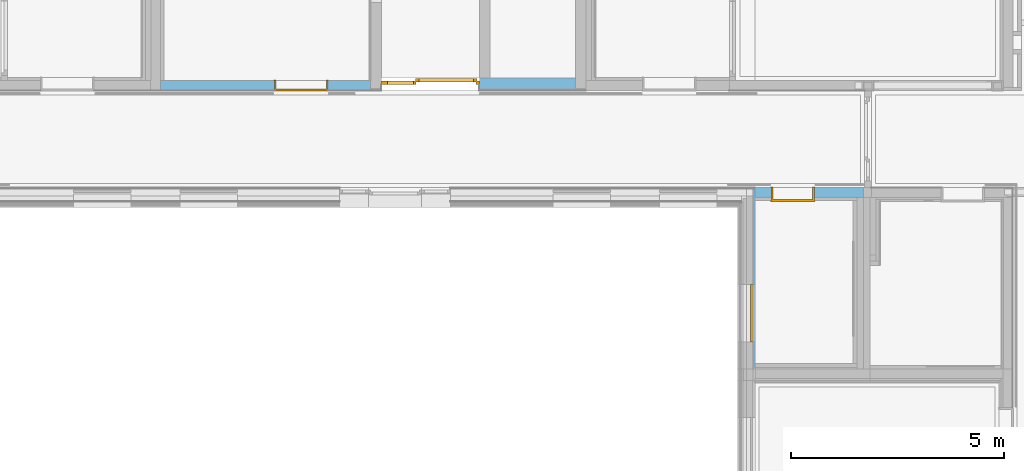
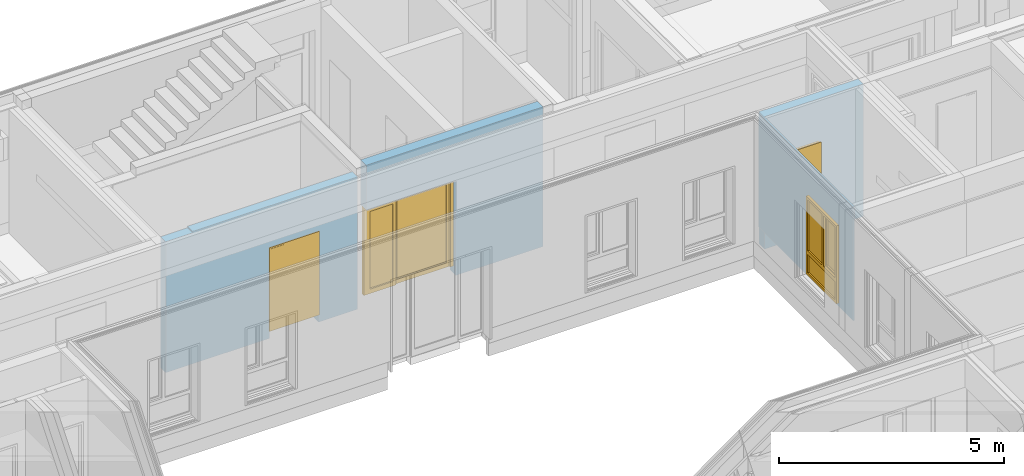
# One storey, part 108 of 207: 3 doors, 1 window, 4 openings, plus 4 elements that do not belong to this part.
"""IFC4 building model written with IfcOpenShell, lengths in metres."""

from ifc_helpers import new_model, entity, si_unit, converted_unit, derived_unit, frame, frame_2d, origin, origin_with_axes, place, context, subcontext, project, spatial, polyline, rectangle, outline, extrude, clip, bounded_halfspace, closed_shell, open_shell, faceted_brep, surface_model, source, transform, mapped, material, type_object, element, fill, save


model = new_model("IFC4")

# Units and contexts
model_context = context("Model", 3, precision=1e-05, world=origin())
body_context = subcontext(model_context, "Body", "Model", "MODEL_VIEW")
ifc_project = project(units=[si_unit("LENGTHUNIT", "METRE"), si_unit("AREAUNIT", "SQUARE_METRE"), si_unit("VOLUMEUNIT", "CUBIC_METRE"), si_unit("MASSUNIT", "GRAM", prefix="KILO"), converted_unit("PLANEANGLEUNIT", "DEGREE", entity("IfcPlaneAngleMeasure", 0.0174532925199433), si_unit("PLANEANGLEUNIT", "RADIAN"), dimensions=[0, 0, 0, 0, 0, 0, 0]), derived_unit("THERMALTRANSMITTANCEUNIT", [(si_unit("POWERUNIT", "WATT"), 1), (si_unit("THERMODYNAMICTEMPERATUREUNIT", "KELVIN"), -1), (si_unit("LENGTHUNIT", "METRE"), -2)]), derived_unit("VOLUMETRICFLOWRATEUNIT", [(si_unit("LENGTHUNIT", "METRE"), 3), (converted_unit("TIMEUNIT", "hour", entity("IfcTimeMeasure", 3600.0), si_unit("TIMEUNIT", "SECOND"), dimensions=[0, 0, 1, 0, 0, 0, 0]), -1), (si_unit("LENGTHUNIT", "METRE"), -1)])], contexts=[model_context])

# Site, building, storey
site_placement = place(None, origin())
site = spatial("IfcSite", under=ifc_project, at=site_placement, Name="Psychiatrie Neubau Wunstorf", CompositionType="ELEMENT")
building_placement = place(site_placement, origin())
building = spatial("IfcBuilding", under=site, at=building_placement, Name="Neubau H2 Stationsgebäude", CompositionType="ELEMENT")
storey_placement = place(building_placement, frame((0.0, 0.0, -0.2)))
storey = spatial("IfcBuildingStorey", under=building, at=storey_placement, Name="H2 Ebene 0", CompositionType="ELEMENT", Elevation=-0.2)

# Wall, opening, window
ifc_material_1 = material(Name="WA-LB")
wall_1_placement = place(storey_placement, frame((62.0610000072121, 16.336000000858, 0.5), z_axis=(0.0, 0.0, 1.0), x_axis=(1.72661628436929e-15, 1.0, 0.0)))
wall_1 = element("IfcWall", 1, at=wall_1_placement, inside=storey, material=ifc_material_1, context=body_context, shape_type="SweptSolid", body=[
    extrude(rectangle(XDim=4.21399802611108, YDim=0.036, at=frame_2d((2.10699901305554, 0.018), x_axis=(1.0, 0.0))), origin_with_axes(), (0.0, 0.0, 1.0), 3.1),
])
opening_1_placement = place(wall_1_placement, frame((0.632998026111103, 0.0, 0.1), z_axis=(-3.15796771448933e-15, 1.0, 0.0), x_axis=(0.0, 0.0, 1.0)))
opening_1 = element("IfcOpeningElement", 2, at=opening_1_placement, cuts=wall_1, Name="Fensteröffnung", ObjectType="Opening", context=body_context, shape_type="SweptSolid", body=[
    extrude(outline(polyline([(2.12, 1.35), (2.12, 0.0), (0.0, 0.0), (0.0, 1.35), (2.12, 1.35)])), origin_with_axes(), (0.0, 0.0, 1.0), 0.036),
])
shared_shape_1 = source(origin_with_axes(), body_context, "Body", "SurfaceModel", [
    surface_model("IfcShellBasedSurfaceModel", [(0.0, 0.0, 2.12), (0.0699999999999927, 0.0, 2.12), (0.0699999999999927, 0.0, 0.0), (0.0, 0.0, 0.0), (0.0, 0.0699999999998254, 0.0), (0.0699999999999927, 0.0699999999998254, 0.0), (0.0699999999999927, 0.0699999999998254, 2.12), (0.0, 0.0699999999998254, 2.12)], [closed_shell([[[0, 1, 2, 3]], [[4, 5, 6, 7]], [[3, 4, 7, 0]], [[2, 5, 4, 3]], [[1, 6, 5, 2]], [[0, 7, 6, 1]]], orient=[[False], [False], [False], [False], [False], [False]])]),
    surface_model("IfcShellBasedSurfaceModel", [(1.27999999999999, 0.0, 2.12), (1.34999999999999, 0.0, 2.12), (1.34999999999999, 0.0, 0.0), (1.27999999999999, 0.0, 0.0), (1.27999999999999, 0.0699999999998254, 0.0), (1.34999999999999, 0.0699999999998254, 0.0), (1.34999999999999, 0.0699999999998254, 2.12), (1.27999999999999, 0.0699999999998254, 2.12)], [closed_shell([[[0, 1, 2, 3]], [[4, 5, 6, 7]], [[3, 4, 7, 0]], [[2, 5, 4, 3]], [[1, 6, 5, 2]], [[0, 7, 6, 1]]], orient=[[False], [False], [False], [False], [False], [False]])]),
    surface_model("IfcShellBasedSurfaceModel", [(0.0699999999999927, 0.0, 0.07), (1.27999999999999, 0.0, 0.07), (1.27999999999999, 0.0, 0.0), (0.0699999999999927, 0.0, 0.0), (0.0699999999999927, 0.0699999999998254, 0.0), (1.27999999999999, 0.0699999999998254, 0.0), (1.27999999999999, 0.0699999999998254, 0.07), (0.0699999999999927, 0.0699999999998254, 0.07)], [closed_shell([[[0, 1, 2, 3]], [[4, 5, 6, 7]], [[3, 4, 7, 0]], [[2, 5, 4, 3]], [[1, 6, 5, 2]], [[0, 7, 6, 1]]], orient=[[False], [False], [False], [False], [False], [False]])]),
    surface_model("IfcShellBasedSurfaceModel", [(0.0699999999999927, 0.0, 2.12), (1.27999999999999, 0.0, 2.12), (1.27999999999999, 0.0, 2.05), (0.0699999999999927, 0.0, 2.05), (0.0699999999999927, 0.0699999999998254, 2.05), (1.27999999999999, 0.0699999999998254, 2.05), (1.27999999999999, 0.0699999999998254, 2.12), (0.0699999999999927, 0.0699999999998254, 2.12)], [closed_shell([[[0, 1, 2, 3]], [[4, 5, 6, 7]], [[3, 4, 7, 0]], [[2, 5, 4, 3]], [[1, 6, 5, 2]], [[0, 7, 6, 1]]], orient=[[False], [False], [False], [False], [False], [False]])]),
    surface_model("IfcShellBasedSurfaceModel", [(0.0699999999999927, 0.0, 0.67), (1.27999999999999, 0.0, 0.67), (1.27999999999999, 0.0, 0.57), (0.0699999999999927, 0.0, 0.57), (0.0699999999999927, 0.0699999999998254, 0.57), (1.27999999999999, 0.0699999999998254, 0.57), (1.27999999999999, 0.0699999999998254, 0.67), (0.0699999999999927, 0.0699999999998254, 0.67)], [closed_shell([[[0, 1, 2, 3]], [[4, 5, 6, 7]], [[3, 4, 7, 0]], [[2, 5, 4, 3]], [[1, 6, 5, 2]], [[0, 7, 6, 1]]], orient=[[False], [False], [False], [False], [False], [False]])]),
    surface_model("IfcShellBasedSurfaceModel", [(0.0699999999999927, 0.0349999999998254, 0.07), (0.0699999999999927, 0.0349999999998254, 0.57), (1.27999999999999, 0.0349999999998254, 0.57), (1.27999999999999, 0.0349999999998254, 0.07)], [open_shell([[[0, 1, 2, 3]]], orient=[[False]])]),
    surface_model("IfcShellBasedSurfaceModel", [(0.569999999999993, 0.0, 2.05), (0.639999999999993, 0.0, 2.05), (0.639999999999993, 0.0, 0.67), (0.569999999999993, 0.0, 0.67), (0.569999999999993, 0.0699999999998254, 0.67), (0.639999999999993, 0.0699999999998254, 0.67), (0.639999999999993, 0.0699999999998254, 2.05), (0.569999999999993, 0.0699999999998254, 2.05)], [closed_shell([[[0, 1, 2, 3]], [[4, 5, 6, 7]], [[3, 4, 7, 0]], [[2, 5, 4, 3]], [[1, 6, 5, 2]], [[0, 7, 6, 1]]], orient=[[False], [False], [False], [False], [False], [False]])]),
    surface_model("IfcShellBasedSurfaceModel", [(0.0499999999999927, -0.0500000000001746, 2.07), (0.119999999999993, -0.0500000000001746, 2.07), (0.119999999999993, -0.0500000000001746, 0.65), (0.0499999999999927, -0.0500000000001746, 0.65), (0.0499999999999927, 0.0199999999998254, 0.65), (0.119999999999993, 0.0199999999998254, 0.65), (0.119999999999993, 0.0199999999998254, 2.07), (0.0499999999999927, 0.0199999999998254, 2.07)], [closed_shell([[[0, 1, 2, 3]], [[4, 5, 6, 7]], [[3, 4, 7, 0]], [[2, 5, 4, 3]], [[1, 6, 5, 2]], [[0, 7, 6, 1]]], orient=[[False], [False], [False], [False], [False], [False]])]),
    surface_model("IfcShellBasedSurfaceModel", [(0.519999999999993, -0.0500000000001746, 2.07), (0.589999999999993, -0.0500000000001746, 2.07), (0.589999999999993, -0.0500000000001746, 0.65), (0.519999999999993, -0.0500000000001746, 0.65), (0.519999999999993, 0.0199999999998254, 0.65), (0.589999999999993, 0.0199999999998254, 0.65), (0.589999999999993, 0.0199999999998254, 2.07), (0.519999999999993, 0.0199999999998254, 2.07)], [closed_shell([[[0, 1, 2, 3]], [[4, 5, 6, 7]], [[3, 4, 7, 0]], [[2, 5, 4, 3]], [[1, 6, 5, 2]], [[0, 7, 6, 1]]], orient=[[False], [False], [False], [False], [False], [False]])]),
    surface_model("IfcShellBasedSurfaceModel", [(0.119999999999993, -0.0500000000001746, 0.72), (0.519999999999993, -0.0500000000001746, 0.72), (0.519999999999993, -0.0500000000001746, 0.65), (0.119999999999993, -0.0500000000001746, 0.65), (0.119999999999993, 0.0199999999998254, 0.65), (0.519999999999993, 0.0199999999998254, 0.65), (0.519999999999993, 0.0199999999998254, 0.72), (0.119999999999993, 0.0199999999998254, 0.72)], [closed_shell([[[0, 1, 2, 3]], [[4, 5, 6, 7]], [[3, 4, 7, 0]], [[2, 5, 4, 3]], [[1, 6, 5, 2]], [[0, 7, 6, 1]]], orient=[[False], [False], [False], [False], [False], [False]])]),
    surface_model("IfcShellBasedSurfaceModel", [(0.119999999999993, -0.0500000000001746, 2.07), (0.519999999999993, -0.0500000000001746, 2.07), (0.519999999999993, -0.0500000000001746, 2.0), (0.119999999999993, -0.0500000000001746, 2.0), (0.119999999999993, 0.0199999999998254, 2.0), (0.519999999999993, 0.0199999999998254, 2.0), (0.519999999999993, 0.0199999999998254, 2.07), (0.119999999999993, 0.0199999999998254, 2.07)], [closed_shell([[[0, 1, 2, 3]], [[4, 5, 6, 7]], [[3, 4, 7, 0]], [[2, 5, 4, 3]], [[1, 6, 5, 2]], [[0, 7, 6, 1]]], orient=[[False], [False], [False], [False], [False], [False]])]),
    surface_model("IfcShellBasedSurfaceModel", [(0.639999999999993, 0.0349999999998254, 0.67), (0.639999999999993, 0.0349999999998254, 2.05), (1.27999999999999, 0.0349999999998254, 2.05), (1.27999999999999, 0.0349999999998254, 0.67)], [open_shell([[[0, 1, 2, 3]]], orient=[[False]])]),
    surface_model("IfcShellBasedSurfaceModel", [(0.119999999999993, -0.0150000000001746, 0.72), (0.119999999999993, -0.0150000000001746, 2.0), (0.519999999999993, -0.0150000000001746, 2.0), (0.519999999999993, -0.0150000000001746, 0.72)], [open_shell([[[0, 1, 2, 3]]], orient=[[False]])]),
])
window_placement = place(opening_1_placement, frame((0.0, 0.0, 0.03), z_axis=(1.0, 0.0, 0.0), x_axis=(0.0, 1.0, -1.43135143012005e-15)))
window = element("IfcWindow", 3, at=window_placement, inside=storey, Name="Fenster", OverallHeight=2.12, OverallWidth=1.35, PartitioningType="USERDEFINED", PredefinedType="WINDOW", context=body_context, shape_type="MappedRepresentation", body=[
    mapped(shared_shape_1, transform((0.0, 0.0, 0.0), x_axis=(1.0, 0.0, 0.0), y_axis=(0.0, 1.0, 0.0), z_axis=(0.0, 0.0, 1.0), scale=1.0)),
])
fill(opening_1, window)

# Wall, opening, door
ifc_material_2 = material(Name="WI-HW 60")
wall_2_placement = place(storey_placement, frame((53.05, 23.0959999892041, 0.0), z_axis=(0.0, 0.0, 1.0), x_axis=(-1.0, 0.0, 0.0)))
wall_2 = element("IfcWall", 4, at=wall_2_placement, inside=storey, material=ifc_material_2, context=body_context, shape_type="Clipping", body=[
    clip(extrude(rectangle(XDim=4.929, YDim=0.232, at=frame_2d((2.4645, 0.116), x_axis=(1.0, 0.0))), origin_with_axes(), (0.0, 0.0, 1.0), 3.6), bounded_halfspace(frame((4.5845, 0.116, 3.56), z_axis=(0.0, 0.0, -1.0), x_axis=(0.0, 1.0, 0.0)), True, origin_with_axes(), polyline([(4.929, 0.0), (4.929, 0.232), (4.24, 0.232), (4.24, 0.0), (4.929, 0.0)]))),
])
opening_2_placement = place(wall_2_placement, frame((1.0, 0.0, 0.0), z_axis=(0.0, 1.0, 0.0), x_axis=(0.0, 0.0, 1.0)))
opening_2 = element("IfcOpeningElement", 5, at=opening_2_placement, cuts=wall_2, Name="SMT", ObjectType="Opening", context=body_context, shape_type="SweptSolid", body=[
    extrude(outline(polyline([(2.46, 1.26), (2.46, 0.0), (0.0, 0.0), (0.0, 1.26), (2.46, 1.26)])), origin_with_axes(), (0.0, 0.0, 1.0), 0.232),
])
ifc_material_3 = material(Name="TI-1F-UZ-ZK")
door_type_1 = type_object("IfcDoorType", Name="SMT", OperationType="SINGLE_SWING_LEFT", ParameterTakesPrecedence=False, PredefinedType="DOOR")
shared_shape_2 = source(origin_with_axes(), body_context, "Body", "Brep", [
    faceted_brep([(1.26, -0.015, 2.46), (1.26, -0.015, 0.2), (1.22, -0.015, 0.2), (1.22, -0.015, 2.46), (1.26, 0.247, 0.2), (1.26, 0.247, 2.46), (1.22, 0.247, 2.46), (1.22, 0.247, 0.2)], [[[0, 1, 2, 3]], [[4, 5, 6, 7]], [[1, 0, 5, 4]], [[2, 1, 4, 7]], [[3, 2, 7, 6]], [[0, 3, 6, 5]]], orient=[[False], [False], [False], [False], [False], [False]]),
    faceted_brep([(1.26, -0.015, 2.475), (1.275, -0.015, 2.475), (1.275, -0.015, 0.2), (1.26, -0.015, 0.2), (1.26, 0.0, 0.2), (1.275, 0.0, 0.2), (1.275, 0.0, 2.475), (1.26, 0.0, 2.475)], [[[0, 1, 2, 3]], [[4, 5, 6, 7]], [[3, 4, 7, 0]], [[2, 5, 4, 3]], [[1, 6, 5, 2]], [[0, 7, 6, 1]]], orient=[[False], [False], [False], [False], [False], [False]]),
    faceted_brep([(1.26, 0.232, 2.475), (1.275, 0.232, 2.475), (1.275, 0.232, 0.2), (1.26, 0.232, 0.2), (1.26, 0.247, 0.2), (1.275, 0.247, 0.2), (1.275, 0.247, 2.475), (1.26, 0.247, 2.475)], [[[0, 1, 2, 3]], [[4, 5, 6, 7]], [[3, 4, 7, 0]], [[2, 5, 4, 3]], [[1, 6, 5, 2]], [[0, 7, 6, 1]]], orient=[[False], [False], [False], [False], [False], [False]]),
    faceted_brep([(0.04, -0.015, 2.46), (0.04, -0.015, 0.2), (0.0, -0.015, 0.2), (0.0, -0.015, 2.46), (0.04, 0.247, 0.2), (0.04, 0.247, 2.46), (0.0, 0.247, 2.46), (0.0, 0.247, 0.2)], [[[0, 1, 2, 3]], [[4, 5, 6, 7]], [[1, 0, 5, 4]], [[2, 1, 4, 7]], [[3, 2, 7, 6]], [[0, 3, 6, 5]]], orient=[[False], [False], [False], [False], [False], [False]]),
    faceted_brep([(0.0, -0.015, 2.475), (0.0, -0.015, 0.2), (-0.015, -0.015, 0.2), (-0.015, -0.015, 2.475), (0.0, 0.0, 0.2), (0.0, 0.0, 2.475), (-0.015, 0.0, 2.475), (-0.015, 0.0, 0.2)], [[[0, 1, 2, 3]], [[4, 5, 6, 7]], [[1, 0, 5, 4]], [[2, 1, 4, 7]], [[3, 2, 7, 6]], [[0, 3, 6, 5]]], orient=[[False], [False], [False], [False], [False], [False]]),
    faceted_brep([(0.0, 0.232, 2.475), (0.0, 0.232, 0.2), (-0.015, 0.232, 0.2), (-0.015, 0.232, 2.475), (0.0, 0.247, 0.2), (0.0, 0.247, 2.475), (-0.015, 0.247, 2.475), (-0.015, 0.247, 0.2)], [[[0, 1, 2, 3]], [[4, 5, 6, 7]], [[1, 0, 5, 4]], [[2, 1, 4, 7]], [[3, 2, 7, 6]], [[0, 3, 6, 5]]], orient=[[False], [False], [False], [False], [False], [False]]),
    faceted_brep([(1.22, -0.015, 2.46), (1.22, -0.015, 2.42), (0.04, -0.015, 2.42), (0.04, -0.015, 2.46), (1.22, 0.247, 2.42), (1.22, 0.247, 2.46), (0.04, 0.247, 2.46), (0.04, 0.247, 2.42)], [[[0, 1, 2, 3]], [[4, 5, 6, 7]], [[1, 0, 5, 4]], [[2, 1, 4, 7]], [[3, 2, 7, 6]], [[0, 3, 6, 5]]], orient=[[False], [False], [False], [False], [False], [False]]),
    faceted_brep([(1.26, -0.015, 2.475), (1.26, -0.015, 2.46), (0.0, -0.015, 2.46), (0.0, -0.015, 2.475), (1.26, 0.0, 2.46), (1.26, 0.0, 2.475), (0.0, 0.0, 2.475), (0.0, 0.0, 2.46)], [[[0, 1, 2, 3]], [[4, 5, 6, 7]], [[1, 0, 5, 4]], [[2, 1, 4, 7]], [[3, 2, 7, 6]], [[0, 3, 6, 5]]], orient=[[False], [False], [False], [False], [False], [False]]),
    faceted_brep([(1.26, 0.232, 2.475), (1.26, 0.232, 2.46), (0.0, 0.232, 2.46), (0.0, 0.232, 2.475), (1.26, 0.247, 2.46), (1.26, 0.247, 2.475), (0.0, 0.247, 2.475), (0.0, 0.247, 2.46)], [[[0, 1, 2, 3]], [[4, 5, 6, 7]], [[1, 0, 5, 4]], [[2, 1, 4, 7]], [[3, 2, 7, 6]], [[0, 3, 6, 5]]], orient=[[False], [False], [False], [False], [False], [False]]),
    faceted_brep([(1.235, 0.198, 2.435), (1.235, 0.198, 0.2), (0.025, 0.198, 0.2), (0.025, 0.198, 2.435), (1.235, 0.248, 0.2), (1.235, 0.248, 2.435), (0.025, 0.248, 2.435), (0.025, 0.248, 0.2)], [[[0, 1, 2, 3]], [[4, 5, 6, 7]], [[1, 0, 5, 4]], [[2, 1, 4, 7]], [[3, 2, 7, 6]], [[0, 3, 6, 5]]], orient=[[False], [False], [False], [False], [False], [False]]),
])
door_1_placement = place(opening_2_placement, frame((0.0, 0.0, 0.0), z_axis=(1.0, 0.0, 0.0), x_axis=(0.0, 1.0, 0.0)))
door_1 = element("IfcDoor", 6, at=door_1_placement, inside=storey, type_object=door_type_1, material=ifc_material_3, Name="SMT", OverallHeight=2.46, OverallWidth=1.26, context=body_context, shape_type="MappedRepresentation", body=[
    mapped(shared_shape_2, transform((0.0, 0.0, 0.0), x_axis=(1.0, 0.0, 0.0), y_axis=(0.0, 1.0, 0.0), z_axis=(0.0, 0.0, 1.0), scale=1.0)),
])
fill(opening_2, door_1)

ifc_material_4 = material(Name="WI-HW 60")
wall_3_placement = place(storey_placement, frame((64.61, 20.5859980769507, 0.0), z_axis=(0.0, 0.0, 1.0), x_axis=(-1.0, 0.0, 0.0)))
wall_3 = element("IfcWall", 7, at=wall_3_placement, inside=storey, material=ifc_material_4, context=body_context, shape_type="SweptSolid", body=[
    extrude(rectangle(XDim=2.54899999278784, YDim=0.231999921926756, at=frame_2d((1.27449999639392, 0.115999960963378), x_axis=(1.0, 0.0))), origin_with_axes(), (0.0, 0.0, 1.0), 3.6),
])
opening_3_placement = place(wall_3_placement, frame((1.14999998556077, 0.0, 0.0), z_axis=(0.0, 1.0, 0.0), x_axis=(0.0, 0.0, 1.0)))
opening_3 = element("IfcOpeningElement", 8, at=opening_3_placement, cuts=wall_3, Name="Türöffnung", ObjectType="Opening", context=body_context, shape_type="SweptSolid", body=[
    extrude(outline(polyline([(2.46, 1.01), (2.46, 0.0), (0.0, 0.0), (0.0, 1.01), (2.46, 1.01)])), origin_with_axes(), (0.0, 0.0, 1.0), 0.231999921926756),
])
ifc_material_5 = material(Name="TI-1F-UZ-D-N")
door_type_2 = type_object("IfcDoorType", Name="SMT", OperationType="SINGLE_SWING_RIGHT", ParameterTakesPrecedence=False, PredefinedType="DOOR")
shared_shape_3 = source(origin_with_axes(), body_context, "Body", "Brep", [
    faceted_brep([(1.01, -0.015, 2.46), (1.01, -0.015, 0.2), (0.97, -0.015, 0.2), (0.97, -0.015, 2.46), (1.01, 0.321999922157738, 0.2), (1.01, 0.321999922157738, 2.46), (0.97, 0.321999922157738, 2.46), (0.97, 0.321999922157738, 0.2)], [[[0, 1, 2, 3]], [[4, 5, 6, 7]], [[1, 0, 5, 4]], [[2, 1, 4, 7]], [[3, 2, 7, 6]], [[0, 3, 6, 5]]], orient=[[False], [False], [False], [False], [False], [False]]),
    faceted_brep([(1.01, -0.015, 2.475), (1.025, -0.015, 2.475), (1.025, -0.015, 0.2), (1.01, -0.015, 0.2), (1.01, 0.0, 0.2), (1.025, 0.0, 0.2), (1.025, 0.0, 2.475), (1.01, 0.0, 2.475)], [[[0, 1, 2, 3]], [[4, 5, 6, 7]], [[3, 4, 7, 0]], [[2, 5, 4, 3]], [[1, 6, 5, 2]], [[0, 7, 6, 1]]], orient=[[False], [False], [False], [False], [False], [False]]),
    faceted_brep([(1.01, 0.306999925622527, 2.475), (1.025, 0.306999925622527, 2.475), (1.025, 0.306999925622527, 0.2), (1.01, 0.306999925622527, 0.2), (1.01, 0.321999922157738, 0.2), (1.025, 0.321999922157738, 0.2), (1.025, 0.321999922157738, 2.475), (1.01, 0.321999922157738, 2.475)], [[[0, 1, 2, 3]], [[4, 5, 6, 7]], [[3, 4, 7, 0]], [[2, 5, 4, 3]], [[1, 6, 5, 2]], [[0, 7, 6, 1]]], orient=[[False], [False], [False], [False], [False], [False]]),
    faceted_brep([(0.04, -0.015, 2.46), (0.04, -0.015, 0.2), (0.0, -0.015, 0.2), (0.0, -0.015, 2.46), (0.04, 0.321999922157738, 0.2), (0.04, 0.321999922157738, 2.46), (0.0, 0.321999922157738, 2.46), (0.0, 0.321999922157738, 0.2)], [[[0, 1, 2, 3]], [[4, 5, 6, 7]], [[1, 0, 5, 4]], [[2, 1, 4, 7]], [[3, 2, 7, 6]], [[0, 3, 6, 5]]], orient=[[False], [False], [False], [False], [False], [False]]),
    faceted_brep([(0.0, -0.015, 2.475), (0.0, -0.015, 0.2), (-0.015, -0.015, 0.2), (-0.015, -0.015, 2.475), (0.0, 0.0, 0.2), (0.0, 0.0, 2.475), (-0.015, 0.0, 2.475), (-0.015, 0.0, 0.2)], [[[0, 1, 2, 3]], [[4, 5, 6, 7]], [[1, 0, 5, 4]], [[2, 1, 4, 7]], [[3, 2, 7, 6]], [[0, 3, 6, 5]]], orient=[[False], [False], [False], [False], [False], [False]]),
    faceted_brep([(0.0, 0.306999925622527, 2.475), (0.0, 0.306999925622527, 0.2), (-0.015, 0.306999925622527, 0.2), (-0.015, 0.306999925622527, 2.475), (0.0, 0.321999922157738, 0.2), (0.0, 0.321999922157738, 2.475), (-0.015, 0.321999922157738, 2.475), (-0.015, 0.321999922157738, 0.2)], [[[0, 1, 2, 3]], [[4, 5, 6, 7]], [[1, 0, 5, 4]], [[2, 1, 4, 7]], [[3, 2, 7, 6]], [[0, 3, 6, 5]]], orient=[[False], [False], [False], [False], [False], [False]]),
    faceted_brep([(0.97, -0.015, 2.46), (0.97, -0.015, 2.42), (0.04, -0.015, 2.42), (0.04, -0.015, 2.46), (0.97, 0.321999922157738, 2.42), (0.97, 0.321999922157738, 2.46), (0.04, 0.321999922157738, 2.46), (0.04, 0.321999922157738, 2.42)], [[[0, 1, 2, 3]], [[4, 5, 6, 7]], [[1, 0, 5, 4]], [[2, 1, 4, 7]], [[3, 2, 7, 6]], [[0, 3, 6, 5]]], orient=[[False], [False], [False], [False], [False], [False]]),
    faceted_brep([(1.01, -0.015, 2.475), (1.01, -0.015, 2.46), (0.0, -0.015, 2.46), (0.0, -0.015, 2.475), (1.01, 0.0, 2.46), (1.01, 0.0, 2.475), (0.0, 0.0, 2.475), (0.0, 0.0, 2.46)], [[[0, 1, 2, 3]], [[4, 5, 6, 7]], [[1, 0, 5, 4]], [[2, 1, 4, 7]], [[3, 2, 7, 6]], [[0, 3, 6, 5]]], orient=[[False], [False], [False], [False], [False], [False]]),
    faceted_brep([(1.01, 0.306999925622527, 2.475), (1.01, 0.306999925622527, 2.46), (0.0, 0.306999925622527, 2.46), (0.0, 0.306999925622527, 2.475), (1.01, 0.321999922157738, 2.46), (1.01, 0.321999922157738, 2.475), (0.0, 0.321999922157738, 2.475), (0.0, 0.321999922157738, 2.46)], [[[0, 1, 2, 3]], [[4, 5, 6, 7]], [[1, 0, 5, 4]], [[2, 1, 4, 7]], [[3, 2, 7, 6]], [[0, 3, 6, 5]]], orient=[[False], [False], [False], [False], [False], [False]]),
    faceted_brep([(0.985, 0.272999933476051, 2.435), (0.985, 0.272999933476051, 0.2), (0.025, 0.272999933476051, 0.2), (0.025, 0.272999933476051, 2.435), (0.985, 0.322999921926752, 0.2), (0.985, 0.322999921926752, 2.435), (0.025, 0.322999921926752, 2.435), (0.025, 0.322999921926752, 0.2)], [[[0, 1, 2, 3]], [[4, 5, 6, 7]], [[1, 0, 5, 4]], [[2, 1, 4, 7]], [[3, 2, 7, 6]], [[0, 3, 6, 5]]], orient=[[False], [False], [False], [False], [False], [False]]),
])
door_2_placement = place(opening_3_placement, frame((0.0, 0.0, 0.0), z_axis=(1.0, 0.0, 0.0), x_axis=(0.0, 1.0, 0.0)))
door_2 = element("IfcDoor", 9, at=door_2_placement, inside=storey, type_object=door_type_2, material=ifc_material_5, Name="SMT", OverallHeight=2.46, OverallWidth=1.01, context=body_context, shape_type="MappedRepresentation", body=[
    mapped(shared_shape_3, transform((0.0, 0.0, 0.0), x_axis=(1.0, 0.0, 0.0), y_axis=(0.0, 1.0, 0.0), z_axis=(0.0, 0.0, 1.0), scale=1.0)),
])
fill(opening_3, door_2)

ifc_material_6 = material(Name="WI-STB")
wall_4_placement = place(storey_placement, frame((57.85, 23.1549999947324, 0.0), z_axis=(0.0, 0.0, 1.0), x_axis=(-1.0, 0.0, 0.0)))
wall_4 = element("IfcWall", 10, at=wall_4_placement, inside=storey, material=ifc_material_6, context=body_context, shape_type="SweptSolid", body=[
    extrude(rectangle(XDim=4.55, YDim=0.25, at=frame_2d((2.275, 0.125), x_axis=(1.0, 0.0))), origin_with_axes(), (0.0, 0.0, 1.0), 3.8),
])
opening_4_placement = place(wall_4_placement, frame((4.55, 0.25, 0.0), z_axis=(0.0, -1.0, 0.0), x_axis=(0.0, 0.0, 1.0)))
opening_4 = element("IfcOpeningElement", 11, at=opening_4_placement, cuts=wall_4, Name="Türöffnung", ObjectType="Opening", context=body_context, shape_type="SweptSolid", body=[
    extrude(outline(polyline([(2.58, 2.3), (2.58, 0.0), (0.0, 0.0), (0.0, 2.3), (2.58, 2.3)])), origin_with_axes(), (0.0, 0.0, 1.0), 0.25),
])
ifc_material_7 = material(Name="TI-1F-AG-D-1S-ZK")
shared_shape_4 = source(origin_with_axes(), body_context, "Body", "SurfaceModel", [
    surface_model("IfcShellBasedSurfaceModel", [(0.0, 0.0, 2.58), (0.08, 0.0, 2.58), (0.08, 0.0, 0.2), (0.0, 0.0, 0.2), (0.0, 0.08, 0.2), (0.08, 0.08, 0.2), (0.08, 0.08, 2.58), (0.0, 0.08, 2.58)], [closed_shell([[[0, 1, 2, 3]], [[4, 5, 6, 7]], [[3, 4, 7, 0]], [[2, 5, 4, 3]], [[1, 6, 5, 2]], [[0, 7, 6, 1]]], orient=[[False], [False], [False], [False], [False], [False]])]),
    surface_model("IfcShellBasedSurfaceModel", [(2.22, 0.0, 2.58), (2.3, 0.0, 2.58), (2.3, 0.0, 0.2), (2.22, 0.0, 0.2), (2.22, 0.08, 0.2), (2.3, 0.08, 0.2), (2.3, 0.08, 2.58), (2.22, 0.08, 2.58)], [closed_shell([[[0, 1, 2, 3]], [[4, 5, 6, 7]], [[3, 4, 7, 0]], [[2, 5, 4, 3]], [[1, 6, 5, 2]], [[0, 7, 6, 1]]], orient=[[False], [False], [False], [False], [False], [False]])]),
    surface_model("IfcShellBasedSurfaceModel", [(0.08, 0.0, 2.58), (2.22, 0.0, 2.58), (2.22, 0.0, 2.5), (0.08, 0.0, 2.5), (0.08, 0.08, 2.5), (2.22, 0.08, 2.5), (2.22, 0.08, 2.58), (0.08, 0.08, 2.58)], [closed_shell([[[0, 1, 2, 3]], [[4, 5, 6, 7]], [[3, 4, 7, 0]], [[2, 5, 4, 3]], [[1, 6, 5, 2]], [[0, 7, 6, 1]]], orient=[[False], [False], [False], [False], [False], [False]])]),
    surface_model("IfcShellBasedSurfaceModel", [(0.08, 0.0, 2.5), (0.15, 0.0, 2.5), (0.15, 0.0, 0.2), (0.08, 0.0, 0.2), (0.08, 0.08, 0.2), (0.15, 0.08, 0.2), (0.15, 0.08, 2.5), (0.08, 0.08, 2.5)], [closed_shell([[[0, 1, 2, 3]], [[4, 5, 6, 7]], [[3, 4, 7, 0]], [[2, 5, 4, 3]], [[1, 6, 5, 2]], [[0, 7, 6, 1]]], orient=[[False], [False], [False], [False], [False], [False]])]),
    surface_model("IfcShellBasedSurfaceModel", [(0.749, 0.0, 2.5), (0.819, 0.0, 2.5), (0.819, 0.0, 0.2), (0.749, 0.0, 0.2), (0.749, 0.08, 0.2), (0.819, 0.08, 0.2), (0.819, 0.08, 2.5), (0.749, 0.08, 2.5)], [closed_shell([[[0, 1, 2, 3]], [[4, 5, 6, 7]], [[3, 4, 7, 0]], [[2, 5, 4, 3]], [[1, 6, 5, 2]], [[0, 7, 6, 1]]], orient=[[False], [False], [False], [False], [False], [False]])]),
    surface_model("IfcShellBasedSurfaceModel", [(0.15, 0.0, 0.32), (0.749, 0.0, 0.32), (0.749, 0.0, 0.2), (0.15, 0.0, 0.2), (0.15, 0.08, 0.2), (0.749, 0.08, 0.2), (0.749, 0.08, 0.32), (0.15, 0.08, 0.32)], [closed_shell([[[0, 1, 2, 3]], [[4, 5, 6, 7]], [[3, 4, 7, 0]], [[2, 5, 4, 3]], [[1, 6, 5, 2]], [[0, 7, 6, 1]]], orient=[[False], [False], [False], [False], [False], [False]])]),
    surface_model("IfcShellBasedSurfaceModel", [(0.15, 0.0, 2.5), (0.749, 0.0, 2.5), (0.749, 0.0, 2.43), (0.15, 0.0, 2.43), (0.15, 0.08, 2.43), (0.749, 0.08, 2.43), (0.749, 0.08, 2.5), (0.15, 0.08, 2.5)], [closed_shell([[[0, 1, 2, 3]], [[4, 5, 6, 7]], [[3, 4, 7, 0]], [[2, 5, 4, 3]], [[1, 6, 5, 2]], [[0, 7, 6, 1]]], orient=[[False], [False], [False], [False], [False], [False]])]),
    surface_model("IfcShellBasedSurfaceModel", [(0.8, 0.06, 2.52), (0.88, 0.06, 2.52), (0.88, 0.06, 0.18), (0.8, 0.06, 0.18), (0.8, 0.14, 0.18), (0.88, 0.14, 0.18), (0.88, 0.14, 2.52), (0.8, 0.14, 2.52)], [closed_shell([[[0, 1, 2, 3]], [[4, 5, 6, 7]], [[3, 4, 7, 0]], [[2, 5, 4, 3]], [[1, 6, 5, 2]], [[0, 7, 6, 1]]], orient=[[False], [False], [False], [False], [False], [False]])]),
    surface_model("IfcShellBasedSurfaceModel", [(2.16, 0.06, 2.52), (2.24, 0.06, 2.52), (2.24, 0.06, 0.18), (2.16, 0.06, 0.18), (2.16, 0.14, 0.18), (2.24, 0.14, 0.18), (2.24, 0.14, 2.52), (2.16, 0.14, 2.52)], [closed_shell([[[0, 1, 2, 3]], [[4, 5, 6, 7]], [[3, 4, 7, 0]], [[2, 5, 4, 3]], [[1, 6, 5, 2]], [[0, 7, 6, 1]]], orient=[[False], [False], [False], [False], [False], [False]])]),
    surface_model("IfcShellBasedSurfaceModel", [(0.88, 0.06, 0.3), (2.16, 0.06, 0.3), (2.16, 0.06, 0.18), (0.88, 0.06, 0.18), (0.88, 0.14, 0.18), (2.16, 0.14, 0.18), (2.16, 0.14, 0.3), (0.88, 0.14, 0.3)], [closed_shell([[[0, 1, 2, 3]], [[4, 5, 6, 7]], [[3, 4, 7, 0]], [[2, 5, 4, 3]], [[1, 6, 5, 2]], [[0, 7, 6, 1]]], orient=[[False], [False], [False], [False], [False], [False]])]),
    surface_model("IfcShellBasedSurfaceModel", [(0.88, 0.06, 2.52), (2.16, 0.06, 2.52), (2.16, 0.06, 2.44), (0.88, 0.06, 2.44), (0.88, 0.14, 2.44), (2.16, 0.14, 2.44), (2.16, 0.14, 2.52), (0.88, 0.14, 2.52)], [closed_shell([[[0, 1, 2, 3]], [[4, 5, 6, 7]], [[3, 4, 7, 0]], [[2, 5, 4, 3]], [[1, 6, 5, 2]], [[0, 7, 6, 1]]], orient=[[False], [False], [False], [False], [False], [False]])]),
    surface_model("IfcShellBasedSurfaceModel", [(0.15, 0.04, 0.32), (0.15, 0.04, 2.43), (0.749, 0.04, 2.43), (0.749, 0.04, 0.32)], [open_shell([[[0, 1, 2, 3]]], orient=[[False]])]),
    surface_model("IfcShellBasedSurfaceModel", [(0.88, 0.1, 0.3), (0.88, 0.1, 2.44), (2.16, 0.1, 2.44), (2.16, 0.1, 0.3)], [open_shell([[[0, 1, 2, 3]]], orient=[[False]])]),
])
door_3_placement = place(opening_4_placement, frame((0.0, 0.0, 0.1), z_axis=(1.0, 0.0, 0.0), x_axis=(0.0, 1.0, 0.0)))
door_3 = element("IfcDoor", 12, at=door_3_placement, inside=storey, material=ifc_material_7, Name="SMT", OperationType="USERDEFINED", OverallHeight=2.58, OverallWidth=2.3, PredefinedType="DOOR", context=body_context, shape_type="MappedRepresentation", body=[
    mapped(shared_shape_4, transform((0.0, 0.0, 0.0), x_axis=(1.0, 0.0, 0.0), y_axis=(0.0, 1.0, 0.0), z_axis=(0.0, 0.0, 1.0), scale=1.0)),
])
fill(opening_4, door_3)

save(model, "model.ifc")
